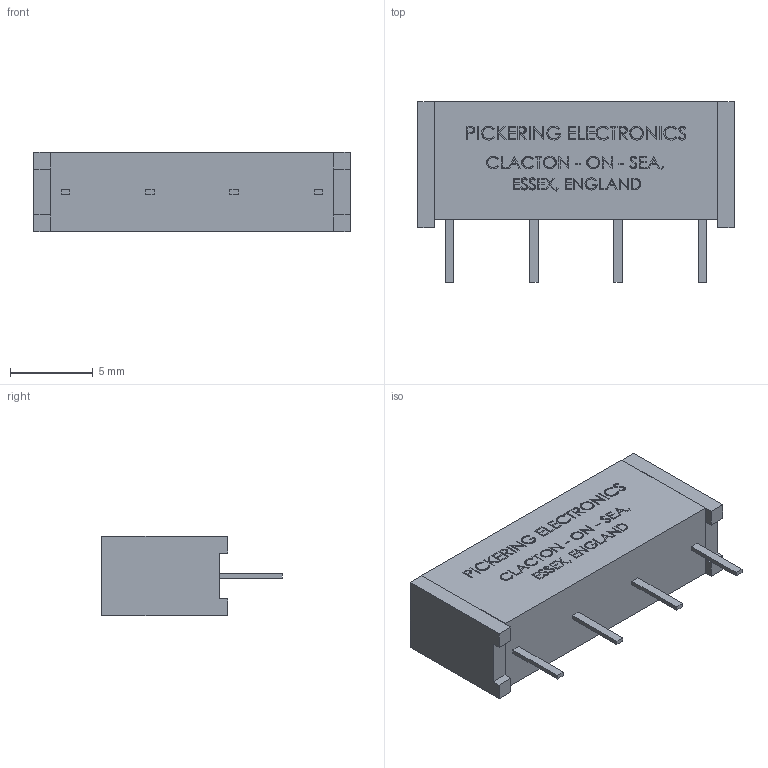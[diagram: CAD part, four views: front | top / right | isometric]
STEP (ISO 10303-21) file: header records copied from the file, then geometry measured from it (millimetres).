
FILE_DESCRIPTION (( 'STEP AP203' ), '1' );
FILE_NAME ('107-1-A-x-xx.STEP', '2010-06-30T13:02:15', ( ' ' ), ( '' ), 'SwSTEP 2.0', 'SolidWorks 2009', '' );
FILE_SCHEMA (( 'CONFIG_CONTROL_DESIGN' ));
Length unit declared in the file: millimetre
Products named in the file (1): 107-1-A-x-xx
Bounding box: 19.1 x 10.9 x 4.8 mm (x, y, z)
Volume: 653 mm3; surface area: 718.3 mm2
Topology: 7 solids, 7 shells, 981 faces, 2592 edges, 1728 vertices
Faces by surface type: plane 720, bspline 261
Entity records: 44617 total; most frequent: CARTESIAN_POINT 21995, ORIENTED_EDGE 5184, DIRECTION 3512, EDGE_CURVE 2592, VECTOR 2070, LINE 2070, VERTEX_POINT 1728, EDGE_LOOP 1084
